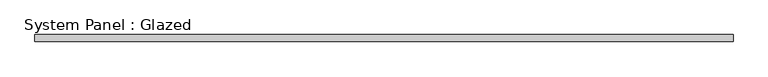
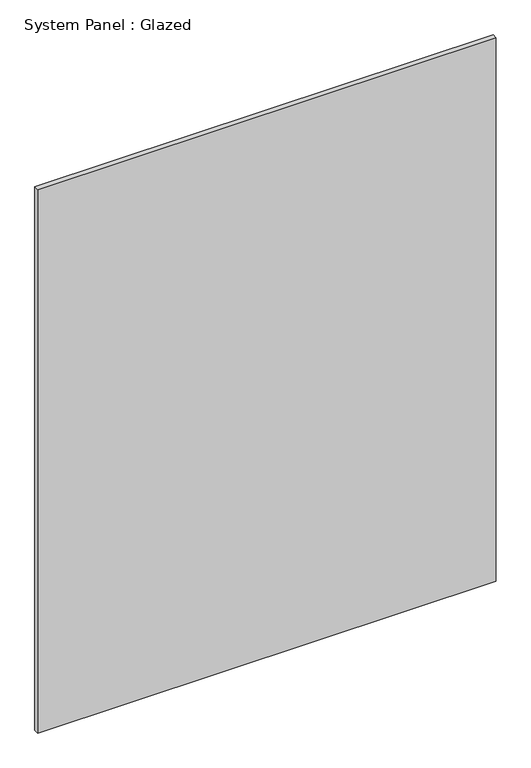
"""IFC4 building model written with IfcOpenShell, lengths in millimetres: plate geometry, System Panel : Glazed."""

import ifcopenshell
import ifcopenshell.guid

model = None  # the IFC model being written
_history = None  # IfcOwnerHistory: only IFC2X3 demands one
_inside = {}  # id of a spatial element -> (the spatial element, [elements in it])
_under = {}  # id of a project, library or spatial element -> (it, [spatial elements below it])
_declared = {}  # id of a project -> (the project, [libraries it declares])
_typed = {}  # id of a type object -> (the type object, [elements of that type])
_made_of = {}  # id of a material, layer set ... -> (it, [elements and type objects made of it])


def new_model(schema):
    """Start an empty IFC model of exactly this schema.

    Asked for "IFC4X3", IfcOpenShell would pick the latest addendum, in which some entities
    have other attributes; the version numbers below select the first issue.
    IFC2X3 requires an IfcOwnerHistory on every rooted entity: one is made here for all.
    """
    global model, _history
    if schema == "IFC4X3":
        model = ifcopenshell.file(schema_version=(4, 3, 0, 0))
    else:
        model = ifcopenshell.file(schema=schema)
    _inside.clear()
    _under.clear()
    _declared.clear()
    _typed.clear()
    _made_of.clear()
    _history = None
    if model.schema == "IFC2X3":
        org = make("IfcOrganization", Name="unknown")
        user = make(
            "IfcPersonAndOrganization",
            ThePerson=make("IfcPerson", FamilyName="unknown"),
            TheOrganization=org,
        )
        app = make(
            "IfcApplication",
            ApplicationDeveloper=org,
            Version="unknown",
            ApplicationFullName="unknown",
            ApplicationIdentifier="unknown",
        )
        _history = make(
            "IfcOwnerHistory",
            OwningUser=user,
            OwningApplication=app,
            ChangeAction="ADDED",
            CreationDate=0,
        )
    return model


def make(cls, **values):
    """One entity of the class cls with the attributes given. An attribute that is None is left unset."""
    return model.create_entity(
        cls, **{name: value for name, value in values.items() if value is not None}
    )


def rooted(cls, **values):
    """An entity with a GlobalId (a new one), such as an element, a storey or a relation."""
    return make(cls, GlobalId=ifcopenshell.guid.new(), OwnerHistory=_history, **values)


def si_unit(unit_type, name, prefix=None):
    """IfcSIUnit, for example si_unit("LENGTHUNIT", "METRE", prefix="MILLI")."""
    return make("IfcSIUnit", UnitType=unit_type, Prefix=prefix, Name=name)


def assignment(units):
    """IfcUnitAssignment: the units of a project."""
    return None if units is None else make("IfcUnitAssignment", Units=units)


def point(xyz):
    """IfcCartesianPoint."""
    return None if xyz is None else make("IfcCartesianPoint", Coordinates=xyz)


def direction(xyz):
    """IfcDirection."""
    return None if xyz is None else make("IfcDirection", DirectionRatios=xyz)


def frame(location, z_axis=None, x_axis=None):
    """IfcAxis2Placement3D, a coordinate frame: its origin and axes. An axis left out is left unset."""
    return make(
        "IfcAxis2Placement3D",
        Location=point(location),
        Axis=direction(z_axis),
        RefDirection=direction(x_axis),
    )


def origin():
    """The frame at (0, 0, 0) with its axes left unset."""
    return frame((0.0, 0.0, 0.0))


def origin_with_axes():
    """The frame at (0, 0, 0) with the z axis (0, 0, 1) and the x axis (1, 0, 0) written out."""
    return frame((0.0, 0.0, 0.0), z_axis=(0.0, 0.0, 1.0), x_axis=(1.0, 0.0, 0.0))


def place(relative_to, where):
    """IfcLocalPlacement: puts the frame where relative to a parent placement (None: the world)."""
    return make(
        "IfcLocalPlacement", PlacementRelTo=relative_to, RelativePlacement=where
    )


def context(
    kind, dimensions, precision=None, world=None, true_north=None, identifier=None
):
    """IfcGeometricRepresentationContext, for example the 3D "Model" context."""
    return make(
        "IfcGeometricRepresentationContext",
        ContextIdentifier=identifier,
        ContextType=kind,
        CoordinateSpaceDimension=dimensions,
        Precision=precision,
        WorldCoordinateSystem=world,
        TrueNorth=true_north,
    )


def project(units=None, contexts=None):
    """IfcProject with its units and contexts."""
    return rooted(
        "IfcProject",
        Name="project",
        RepresentationContexts=contexts,
        UnitsInContext=assignment(units),
    )


def spatial(cls, under=None, at=None, **own):
    """A site, building, storey or space (cls), placed at a placement, below another one or the project."""
    s = rooted(cls, ObjectPlacement=at, **own)
    if under is not None:
        _under.setdefault(under.id(), (under, []))[1].append(s)
    return s


def polyline(points):
    """IfcPolyline through the points."""
    return make("IfcPolyline", Points=[point(p) for p in points])


def outline(outer, holes=None, kind="AREA"):
    """IfcArbitraryClosedProfileDef: a profile drawn as a closed curve; with holes, ...WithVoids."""
    if holes is None:
        return make("IfcArbitraryClosedProfileDef", ProfileType=kind, OuterCurve=outer)
    return make(
        "IfcArbitraryProfileDefWithVoids",
        ProfileType=kind,
        OuterCurve=outer,
        InnerCurves=holes,
    )


def extrude(swept, where, along, depth):
    """IfcExtrudedAreaSolid: the profile swept, set in the frame where, extruded along a direction by depth."""
    return make(
        "IfcExtrudedAreaSolid",
        SweptArea=swept,
        Position=where,
        ExtrudedDirection=direction(along),
        Depth=depth,
    )


def shape(context_of_items, identifier, shape_type, items):
    """IfcShapeRepresentation: the items that make up one representation, for example the "Body"."""
    return make(
        "IfcShapeRepresentation",
        ContextOfItems=context_of_items,
        RepresentationIdentifier=identifier,
        RepresentationType=shape_type,
        Items=items,
    )


def source(mapping_origin, context_of_items, identifier, shape_type, items):
    """IfcRepresentationMap: a shape defined once, which mapped items show again and again."""
    return make(
        "IfcRepresentationMap",
        MappingOrigin=mapping_origin,
        MappedRepresentation=shape(context_of_items, identifier, shape_type, items),
    )


def transform(
    local_origin,
    x_axis=None,
    y_axis=None,
    z_axis=None,
    scale=None,
    scale2=None,
    scale3=None,
    uniform=True,
):
    """IfcCartesianTransformationOperator3D, or its non-uniform kind. x_axis, y_axis, z_axis: its Axis1, 2, 3."""
    if uniform:
        return make(
            "IfcCartesianTransformationOperator3D",
            Axis1=direction(x_axis),
            Axis2=direction(y_axis),
            LocalOrigin=point(local_origin),
            Scale=scale,
            Axis3=direction(z_axis),
        )
    return make(
        "IfcCartesianTransformationOperator3DnonUniform",
        Axis1=direction(x_axis),
        Axis2=direction(y_axis),
        LocalOrigin=point(local_origin),
        Scale=scale,
        Axis3=direction(z_axis),
        Scale2=scale2,
        Scale3=scale3,
    )


def mapped(mapping_source, mapping_target):
    """IfcMappedItem: shows the shape of a source again, moved by a transform."""
    return make(
        "IfcMappedItem", MappingSource=mapping_source, MappingTarget=mapping_target
    )


def made_of(thing, what):
    """Note that an element or type object is made of a material, layer set ...; save() writes the relation."""
    if what is not None:
        _made_of.setdefault(what.id(), (what, []))[1].append(thing)
    return thing


def element(
    cls,
    number,
    at=None,
    inside=None,
    cuts=None,
    type_object=None,
    material=None,
    context=None,
    identifier="Body",
    shape_type=None,
    held_by="IfcProductDefinitionShape",
    body=None,
    shapes=None,
    **own,
):
    """One element of the class cls, such as IfcWall. Its Tag is "e" and its number.

    at: its placement. inside: the storey or other place that contains it. cuts: it is an
    opening in that element (IfcRelVoidsElement). A single representation is given by context,
    identifier, shape_type and body (its items); several are given by shapes. held_by: the class
    of the entity that holds the representations. save() writes the other relations.
    """
    e = rooted(cls, Tag="e%d" % number, ObjectPlacement=at, **own)
    if body is not None:
        shapes = [shape(context, identifier, shape_type, body)]
    if shapes is not None:
        e.Representation = make(held_by, Representations=shapes)
    if inside is not None:
        _inside.setdefault(inside.id(), (inside, []))[1].append(e)
    if cuts is not None:
        rooted(
            "IfcRelVoidsElement", RelatingBuildingElement=cuts, RelatedOpeningElement=e
        )
    if type_object is not None:
        _typed.setdefault(type_object.id(), (type_object, []))[1].append(e)
    return made_of(e, material)


def aggregate(whole, parts):
    """IfcRelAggregates: a whole, such as a stair, and the parts it consists of."""
    return rooted("IfcRelAggregates", RelatingObject=whole, RelatedObjects=parts)


def save(model, path):
    """Write the relations noted so far, then the file.

    IfcRelAggregates (storeys below a building ...), IfcRelContainedInSpatialStructure (elements
    in a storey), IfcRelDefinesByType, IfcRelAssociatesMaterial and IfcRelDeclares: one each for
    every whole, place, type object, material and project.
    """
    for whole, parts in _under.values():
        aggregate(whole, parts)
    for where, things in _inside.values():
        rooted(
            "IfcRelContainedInSpatialStructure",
            RelatedElements=things,
            RelatingStructure=where,
        )
    for kind, things in _typed.values():
        rooted("IfcRelDefinesByType", RelatedObjects=things, RelatingType=kind)
    for what, things in _made_of.values():
        rooted("IfcRelAssociatesMaterial", RelatedObjects=things, RelatingMaterial=what)
    for by, libraries in _declared.values():
        rooted("IfcRelDeclares", RelatingContext=by, RelatedDefinitions=libraries)
    model.write(path)


def system_panel_glazed_98bb05ca(model_context):
    return source(origin(), model_context, "Body", "SweptSolid", [
        extrude(outline(polyline([(1237.5, -49.5), (-1237.5, -49.5), (-1237.5, -24.5), (1237.5, -24.5), (1237.5, -49.5)])), origin_with_axes(), (0.0, 0.0, 1.0), 3100.0),
    ])


if __name__ == "__main__":
    model = new_model("IFC4")
    model_context = context("Model", 3, world=origin())
    ifc_project = project(units=[si_unit("LENGTHUNIT", "METRE", prefix="MILLI")], contexts=[model_context])
    site = spatial("IfcSite", under=ifc_project)
    building = spatial("IfcBuilding", under=site)
    placement = place(None, origin())
    system_panel_glazed_shape = system_panel_glazed_98bb05ca(model_context)
    element("IfcPlate", 1, ObjectType="System Panel : Glazed", at=placement, inside=building, context=model_context, shape_type="MappedRepresentation", body=[
        mapped(system_panel_glazed_shape, transform((0.0, 0.0, 0.0), x_axis=(1.0, 0.0, 0.0), y_axis=(0.0, 1.0, 0.0), z_axis=(0.0, 0.0, 1.0))),
    ])
    save(model, "model.ifc")
